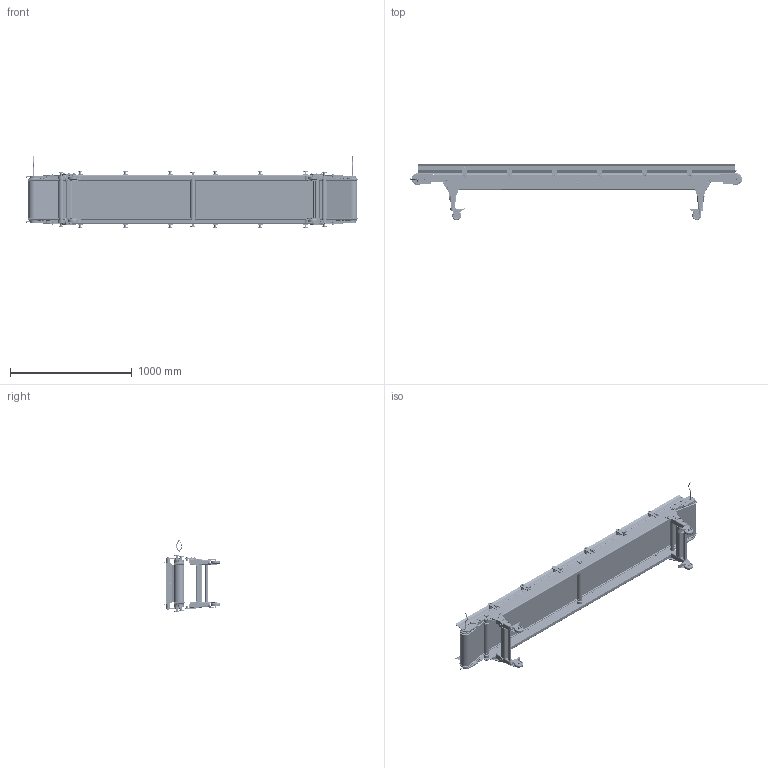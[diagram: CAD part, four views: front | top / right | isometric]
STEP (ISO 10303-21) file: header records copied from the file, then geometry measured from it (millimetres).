
FILE_DESCRIPTION(/* description */ (''),/* implementation_level */ '2;1');
FILE_NAME(/* name */ 'beltconveyor_a047_w300_l2600.stp',/* time_stamp */ '2024-12-21T22:30:54+08:00',/* author */ (''),/* organization */ (''),/* preprocessor_version */ 'ST-DEVELOPER v16.7',/* originating_system */ 'SIEMENS PLM Software NX 12.0',/* authorisation */ '');
FILE_SCHEMA (('AUTOMOTIVE_DESIGN { 1 0 10303 214 3 1 1 1 }'));
Products named in the file (34): BANDA 3 kofiguracje_PRAWA; BANDA 3 kofiguracje_LEWA; hex bolt gradeb_iso_ISO 4015 - M8 x 45 x 22-N; wspornik do band_Domyślna; dystans okrągły do band_od strony
 wysypu; Część1_Domyślna; Bęben napędowy_Domyśln
a; Przenośnik taśmowy Belt transverse conveyour DD
P line_z taśmą; mocowanie osi napinacza_Domyślna; naciąg rolek złożenie_
Domyślna; Stopa wysuwna_Domyślna_Obrobiona_; hex nut style 1 gradeab_iso_Hexagon Nut ISO - 4032 - M8 - W - N; socket head cap screw_iso_ISO 4762 M8 x 70 --- 28N; socket head cap screw_iso_ISO 4762 M8 x 35 - 35N; Rękojeść VC69240SM8INOX_Do rolek naciąg
owych - męski; plain washer xlarge grade c_iso_Washer ISO 7094 - 16; plain washer normal grade a_iso_Washer ISO 7089 - 8; Stopa stała_Domyślna_Obrobiona_; plain washer large grade ac_iso_Washer ISO 7093 - 8; Oś naciągu rolek_Domyśl
na; plain washer chamfered grade a_iso_Washer ISO 7090 - 8; rolka podtrzymująca_Domyślna; Bęben napędowy_bezkabla _; Zestaw kołowy rader fi 75 H101 z ekspanderem
_Domyślna; hex screw gradec_pegas kopia iso_ISO 4018 - M8 x 20-WN; socket head cap screw_iso_ISO 4762 M6 x 16 --- 16N; hex nut gradec_iso_Hexagon Nut ISO - 4034 - M8 - N; plain washer small grade a_iso_Washer ISO 7092 - 8; hex screw gradec_iso__ISO 4018 - M8 x 20-WN; plain washer small grade a_iso_Washer ISO 7092 - 10; Rękojeść VC69240SM8INOX_Domyśl
na; Złożenie BANDA  _ 3 konfig_PRAWA; Złożenie BANDA  _ 3 konfig_LEWA; beltconveyor_a047_w300_l2600
Assembly tree (254 placements, depth 3):
  beltconveyor_a047_w300_l2600
    Złożenie BANDA  _ 3 konfig_LEWA
      dystans okrągły do band_od strony
 wysypu  x6
      wspornik do band_Domyślna  x6
      plain washer normal grade a_iso_Washer ISO 7089 - 8  x12
      hex bolt gradeb_iso_ISO 4015 - M8 x 45 x 22-N  x6
      BANDA 3 kofiguracje_LEWA
      hex nut gradec_iso_Hexagon Nut ISO - 4034 - M8 - N  x6
    Rękojeść VC69240SM8INOX_Domyśl
na  x12
    plain washer small grade a_iso_Washer ISO 7092 - 10  x8
    hex screw gradec_iso__ISO 4018 - M8 x 20-WN  x28
    plain washer small grade a_iso_Washer ISO 7092 - 8  x34
    hex nut gradec_iso_Hexagon Nut ISO - 4034 - M8 - N  x10
    socket head cap screw_iso_ISO 4762 M6 x 16 --- 16N  x2
    hex screw gradec_pegas kopia iso_ISO 4018 - M8 x 20-WN  x16
    Zestaw kołowy rader fi 75 H101 z ekspanderem
_Domyślna  x4
    Bęben napędowy_bezkabla _
    rolka podtrzymująca_Domyślna  x3
    plain washer chamfered grade a_iso_Washer ISO 7090 - 8  x8
    Oś naciągu rolek_Domyśl
na  x4
    plain washer large grade ac_iso_Washer ISO 7093 - 8  x12
    Stopa stała_Domyślna_Obrobiona_  x2
    plain washer normal grade a_iso_Washer ISO 7089 - 8  x5
    plain washer xlarge grade c_iso_Washer ISO 7094 - 16  x4
    Rękojeść VC69240SM8INOX_Do rolek naciąg
owych - męski  x6
    socket head cap screw_iso_ISO 4762 M8 x 35 - 35N  x3
    socket head cap screw_iso_ISO 4762 M8 x 70 --- 28N  x2
    hex nut style 1 gradeab_iso_Hexagon Nut ISO - 4032 - M8 - W - N  x3
    Stopa wysuwna_Domyślna_Obrobiona_  x2
    naciąg rolek złożenie_
Domyślna  x2
    mocowanie osi napinacza_Domyślna  x3
    Przenośnik taśmowy Belt transverse conveyour DD
P line_z taśmą
    Bęben napędowy_Domyśln
a  x2
    Złożenie BANDA  _ 3 konfig_PRAWA
      wspornik do band_Domyślna  x6
      BANDA 3 kofiguracje_PRAWA
      plain washer normal grade a_iso_Washer ISO 7089 - 8  x12
      dystans okrągły do band_od strony
 wysypu  x6
      hex nut gradec_iso_Hexagon Nut ISO - 4034 - M8 - N  x6
      hex bolt gradeb_iso_ISO 4015 - M8 x 45 x 22-N  x6
    Część1_Domyślna
Bounding box: 2724.76 x 461.28 x 590.53 mm (x, y, z)
Volume: 17630764.2 mm3; surface area: 10242797.7 mm2
Topology: 406 solids, 406 shells, 7511 faces, 17526 edges, 10910 vertices
Faces by surface type: plane 3022, cylinder 2292, cone 1432, extrusion 369, torus 308, bspline 88
Full cylindrical faces by diameter (mm): 8 x28
Entity records: 74015 total; most frequent: CARTESIAN_POINT 20207, ORIENTED_EDGE 10616, DIRECTION 9671, EDGE_CURVE 5308, VERTEX_POINT 3442, AXIS2_PLACEMENT_3D 3427, VECTOR 2817, EDGE_LOOP 2482
